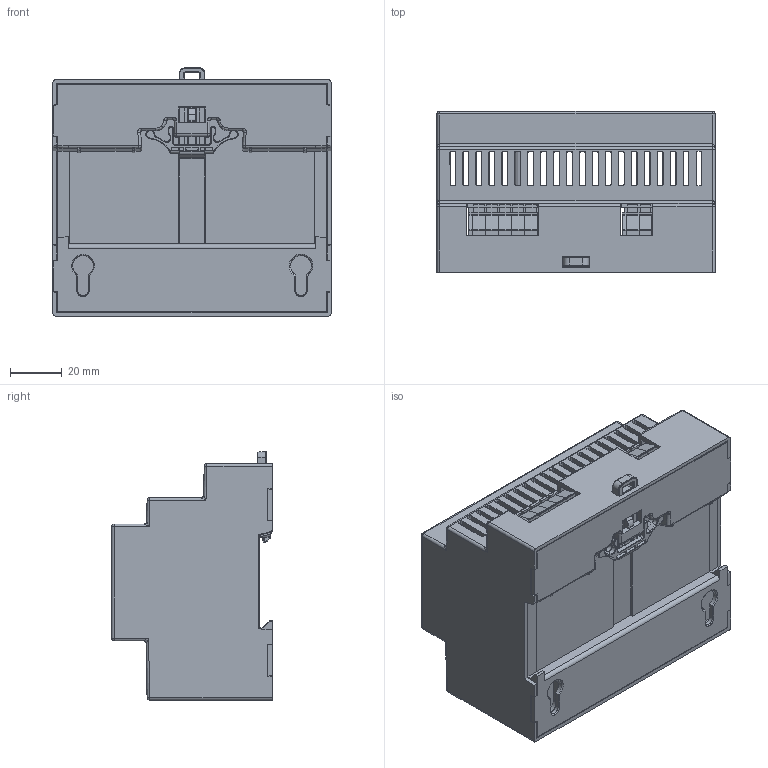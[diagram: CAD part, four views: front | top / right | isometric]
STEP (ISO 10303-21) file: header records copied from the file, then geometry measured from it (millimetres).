
FILE_DESCRIPTION(/* description */ (''),/* implementation_level */ '2;1');
FILE_NAME(/* name */ 'C:\VAULT_WORKSPACE\Designs\HU\1906G01001\1906G01001-0001_Kundenmodell.stp',/* time_stamp */ '2022-06-07T14:05:37+02:00',/* author */ ('jt'),/* organization */ (''),/* preprocessor_version */ 'ST-DEVELOPER v18.1',/* originating_system */ 'Autodesk Inventor 2021',/* authorisation */ '');
FILE_SCHEMA (('CONFIG_CONTROL_DESIGN'));
Products named in the file (1): 1906G01001-0001_Kundenmodell
Bounding box: 107.11 x 62 x 95.66 mm (x, y, z)
Volume: 84574.1 mm3; surface area: 96872.6 mm2
Topology: 4 solids, 4 shells, 3481 faces, 9095 edges, 5732 vertices
Faces by surface type: plane 2094, bspline 935, cylinder 310, cone 92, sphere 26, torus 24
Full cylindrical faces by diameter (mm): 0.786 x7, 0.808 x7, 3.2 x4
Entity records: 123420 total; most frequent: CARTESIAN_POINT 40378, ORIENTED_EDGE 18150, DIRECTION 13281, EDGE_CURVE 9075, LINE 6493, VECTOR 6493, VERTEX_POINT 5732, EDGE_LOOP 3729
